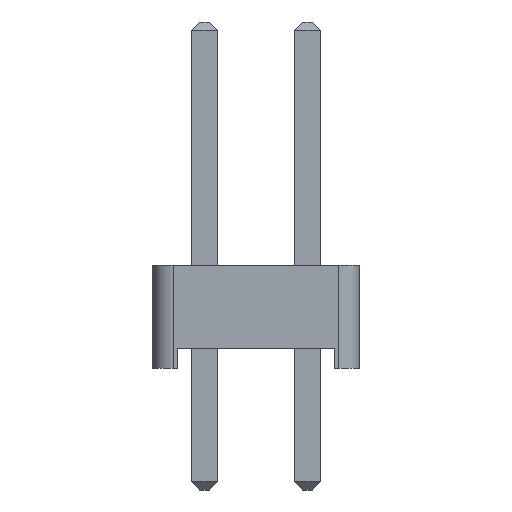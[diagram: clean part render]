
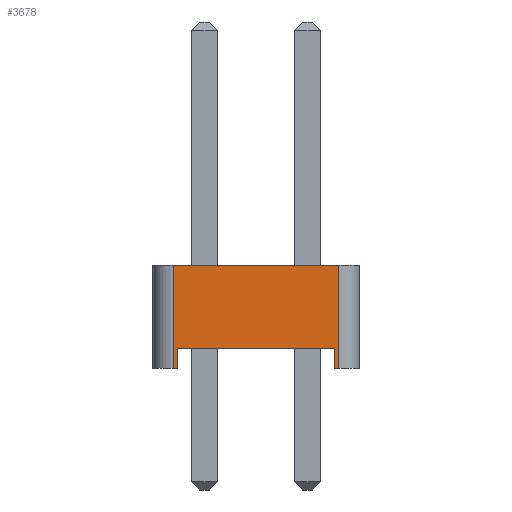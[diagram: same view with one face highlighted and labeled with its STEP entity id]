
A CAD part, left-side view. The second image highlights one B-rep face of the part: STEP entity #3678.
In plain terms, the highlighted planar face has unit normal (-1, 0, 0).
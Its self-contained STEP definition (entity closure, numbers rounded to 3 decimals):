
#3418 = VERTEX_POINT('',#3419);
#3419 = CARTESIAN_POINT('',(-1.27,2.04,0.));
#3427 = PLANE('',#3428);
#3428 = AXIS2_PLACEMENT_3D('',#3429,#3430,#3431);
#3429 = CARTESIAN_POINT('',(0.,0.,0.));
#3430 = DIRECTION('',(-0.,-0.,-1.));
#3431 = DIRECTION('',(-1.,0.,0.));
#3443 = CYLINDRICAL_SURFACE('',#3444,0.5);
#3444 = AXIS2_PLACEMENT_3D('',#3445,#3446,#3447);
#3445 = CARTESIAN_POINT('',(-0.77,2.04,0.));
#3446 = DIRECTION('',(0.,0.,1.));
#3447 = DIRECTION('',(0.,1.,0.));
#3545 = VERTEX_POINT('',#3546);
#3546 = CARTESIAN_POINT('',(-1.27,1.94,0.));
#3560 = PLANE('',#3561);
#3561 = AXIS2_PLACEMENT_3D('',#3562,#3563,#3564);
#3562 = CARTESIAN_POINT('',(1.27,1.94,0.));
#3563 = DIRECTION('',(0.,-1.,0.));
#3564 = DIRECTION('',(-1.,0.,0.));
#3572 = EDGE_CURVE('',#3545,#3418,#3573,.T.);
#3573 = SURFACE_CURVE('',#3574,(#3578,#3585),.PCURVE_S1.);
#3574 = LINE('',#3575,#3576);
#3575 = CARTESIAN_POINT('',(-1.27,-2.54,0.));
#3576 = VECTOR('',#3577,1.);
#3577 = DIRECTION('',(0.,1.,0.));
#3578 = PCURVE('',#3427,#3579);
#3579 = DEFINITIONAL_REPRESENTATION('',(#3580),#3584);
#3580 = LINE('',#3581,#3582);
#3581 = CARTESIAN_POINT('',(1.27,-2.54));
#3582 = VECTOR('',#3583,1.);
#3583 = DIRECTION('',(0.,1.));
#3584 = ( GEOMETRIC_REPRESENTATION_CONTEXT(2) 
PARAMETRIC_REPRESENTATION_CONTEXT() REPRESENTATION_CONTEXT('2D SPACE',''
  ) );
#3585 = PCURVE('',#3586,#3591);
#3586 = PLANE('',#3587);
#3587 = AXIS2_PLACEMENT_3D('',#3588,#3589,#3590);
#3588 = CARTESIAN_POINT('',(-1.27,-2.54,0.));
#3589 = DIRECTION('',(-1.,0.,0.));
#3590 = DIRECTION('',(0.,1.,0.));
#3591 = DEFINITIONAL_REPRESENTATION('',(#3592),#3596);
#3592 = LINE('',#3593,#3594);
#3593 = CARTESIAN_POINT('',(0.,0.));
#3594 = VECTOR('',#3595,1.);
#3595 = DIRECTION('',(1.,0.));
#3596 = ( GEOMETRIC_REPRESENTATION_CONTEXT(2) 
PARAMETRIC_REPRESENTATION_CONTEXT() REPRESENTATION_CONTEXT('2D SPACE',''
  ) );
#3602 = EDGE_CURVE('',#3418,#3603,#3605,.T.);
#3603 = VERTEX_POINT('',#3604);
#3604 = CARTESIAN_POINT('',(-1.27,2.04,2.54));
#3605 = SURFACE_CURVE('',#3606,(#3610,#3617),.PCURVE_S1.);
#3606 = LINE('',#3607,#3608);
#3607 = CARTESIAN_POINT('',(-1.27,2.04,0.));
#3608 = VECTOR('',#3609,1.);
#3609 = DIRECTION('',(0.,0.,1.));
#3610 = PCURVE('',#3443,#3611);
#3611 = DEFINITIONAL_REPRESENTATION('',(#3612),#3616);
#3612 = LINE('',#3613,#3614);
#3613 = CARTESIAN_POINT('',(1.571,0.));
#3614 = VECTOR('',#3615,1.);
#3615 = DIRECTION('',(0.,1.));
#3616 = ( GEOMETRIC_REPRESENTATION_CONTEXT(2) 
PARAMETRIC_REPRESENTATION_CONTEXT() REPRESENTATION_CONTEXT('2D SPACE',''
  ) );
#3617 = PCURVE('',#3586,#3618);
#3618 = DEFINITIONAL_REPRESENTATION('',(#3619),#3623);
#3619 = LINE('',#3620,#3621);
#3620 = CARTESIAN_POINT('',(4.58,0.));
#3621 = VECTOR('',#3622,1.);
#3622 = DIRECTION('',(0.,-1.));
#3623 = ( GEOMETRIC_REPRESENTATION_CONTEXT(2) 
PARAMETRIC_REPRESENTATION_CONTEXT() REPRESENTATION_CONTEXT('2D SPACE',''
  ) );
#3642 = PLANE('',#3643);
#3643 = AXIS2_PLACEMENT_3D('',#3644,#3645,#3646);
#3644 = CARTESIAN_POINT('',(0.,0.,2.54));
#3645 = DIRECTION('',(-0.,-0.,-1.));
#3646 = DIRECTION('',(-1.,0.,0.));
#3678 = ADVANCED_FACE('',(#3679),#3586,.T.);
#3679 = FACE_BOUND('',#3680,.T.);
#3680 = EDGE_LOOP('',(#3681,#3711,#3739,#3760,#3761,#3762,#3785,#3813));
#3681 = ORIENTED_EDGE('',*,*,#3682,.F.);
#3682 = EDGE_CURVE('',#3683,#3685,#3687,.T.);
#3683 = VERTEX_POINT('',#3684);
#3684 = CARTESIAN_POINT('',(-1.27,-2.04,0.));
#3685 = VERTEX_POINT('',#3686);
#3686 = CARTESIAN_POINT('',(-1.27,-1.94,0.));
#3687 = SURFACE_CURVE('',#3688,(#3692,#3699),.PCURVE_S1.);
#3688 = LINE('',#3689,#3690);
#3689 = CARTESIAN_POINT('',(-1.27,-2.54,0.));
#3690 = VECTOR('',#3691,1.);
#3691 = DIRECTION('',(0.,1.,0.));
#3692 = PCURVE('',#3586,#3693);
#3693 = DEFINITIONAL_REPRESENTATION('',(#3694),#3698);
#3694 = LINE('',#3695,#3696);
#3695 = CARTESIAN_POINT('',(0.,0.));
#3696 = VECTOR('',#3697,1.);
#3697 = DIRECTION('',(1.,0.));
#3698 = ( GEOMETRIC_REPRESENTATION_CONTEXT(2) 
PARAMETRIC_REPRESENTATION_CONTEXT() REPRESENTATION_CONTEXT('2D SPACE',''
  ) );
#3699 = PCURVE('',#3700,#3705);
#3700 = PLANE('',#3701);
#3701 = AXIS2_PLACEMENT_3D('',#3702,#3703,#3704);
#3702 = CARTESIAN_POINT('',(0.,0.,0.));
#3703 = DIRECTION('',(-0.,-0.,-1.));
#3704 = DIRECTION('',(-1.,0.,0.));
#3705 = DEFINITIONAL_REPRESENTATION('',(#3706),#3710);
#3706 = LINE('',#3707,#3708);
#3707 = CARTESIAN_POINT('',(1.27,-2.54));
#3708 = VECTOR('',#3709,1.);
#3709 = DIRECTION('',(0.,1.));
#3710 = ( GEOMETRIC_REPRESENTATION_CONTEXT(2) 
PARAMETRIC_REPRESENTATION_CONTEXT() REPRESENTATION_CONTEXT('2D SPACE',''
  ) );
#3711 = ORIENTED_EDGE('',*,*,#3712,.T.);
#3712 = EDGE_CURVE('',#3683,#3713,#3715,.T.);
#3713 = VERTEX_POINT('',#3714);
#3714 = CARTESIAN_POINT('',(-1.27,-2.04,2.54));
#3715 = SURFACE_CURVE('',#3716,(#3720,#3727),.PCURVE_S1.);
#3716 = LINE('',#3717,#3718);
#3717 = CARTESIAN_POINT('',(-1.27,-2.04,0.));
#3718 = VECTOR('',#3719,1.);
#3719 = DIRECTION('',(0.,0.,1.));
#3720 = PCURVE('',#3586,#3721);
#3721 = DEFINITIONAL_REPRESENTATION('',(#3722),#3726);
#3722 = LINE('',#3723,#3724);
#3723 = CARTESIAN_POINT('',(0.5,0.));
#3724 = VECTOR('',#3725,1.);
#3725 = DIRECTION('',(0.,-1.));
#3726 = ( GEOMETRIC_REPRESENTATION_CONTEXT(2) 
PARAMETRIC_REPRESENTATION_CONTEXT() REPRESENTATION_CONTEXT('2D SPACE',''
  ) );
#3727 = PCURVE('',#3728,#3733);
#3728 = CYLINDRICAL_SURFACE('',#3729,0.5);
#3729 = AXIS2_PLACEMENT_3D('',#3730,#3731,#3732);
#3730 = CARTESIAN_POINT('',(-0.77,-2.04,0.));
#3731 = DIRECTION('',(0.,0.,1.));
#3732 = DIRECTION('',(0.,-1.,0.));
#3733 = DEFINITIONAL_REPRESENTATION('',(#3734),#3738);
#3734 = LINE('',#3735,#3736);
#3735 = CARTESIAN_POINT('',(-1.571,0.));
#3736 = VECTOR('',#3737,1.);
#3737 = DIRECTION('',(-0.,1.));
#3738 = ( GEOMETRIC_REPRESENTATION_CONTEXT(2) 
PARAMETRIC_REPRESENTATION_CONTEXT() REPRESENTATION_CONTEXT('2D SPACE',''
  ) );
#3739 = ORIENTED_EDGE('',*,*,#3740,.T.);
#3740 = EDGE_CURVE('',#3713,#3603,#3741,.T.);
#3741 = SURFACE_CURVE('',#3742,(#3746,#3753),.PCURVE_S1.);
#3742 = LINE('',#3743,#3744);
#3743 = CARTESIAN_POINT('',(-1.27,-2.54,2.54));
#3744 = VECTOR('',#3745,1.);
#3745 = DIRECTION('',(0.,1.,0.));
#3746 = PCURVE('',#3586,#3747);
#3747 = DEFINITIONAL_REPRESENTATION('',(#3748),#3752);
#3748 = LINE('',#3749,#3750);
#3749 = CARTESIAN_POINT('',(0.,-2.54));
#3750 = VECTOR('',#3751,1.);
#3751 = DIRECTION('',(1.,0.));
#3752 = ( GEOMETRIC_REPRESENTATION_CONTEXT(2) 
PARAMETRIC_REPRESENTATION_CONTEXT() REPRESENTATION_CONTEXT('2D SPACE',''
  ) );
#3753 = PCURVE('',#3642,#3754);
#3754 = DEFINITIONAL_REPRESENTATION('',(#3755),#3759);
#3755 = LINE('',#3756,#3757);
#3756 = CARTESIAN_POINT('',(1.27,-2.54));
#3757 = VECTOR('',#3758,1.);
#3758 = DIRECTION('',(0.,1.));
#3759 = ( GEOMETRIC_REPRESENTATION_CONTEXT(2) 
PARAMETRIC_REPRESENTATION_CONTEXT() REPRESENTATION_CONTEXT('2D SPACE',''
  ) );
#3760 = ORIENTED_EDGE('',*,*,#3602,.F.);
#3761 = ORIENTED_EDGE('',*,*,#3572,.F.);
#3762 = ORIENTED_EDGE('',*,*,#3763,.T.);
#3763 = EDGE_CURVE('',#3545,#3764,#3766,.T.);
#3764 = VERTEX_POINT('',#3765);
#3765 = CARTESIAN_POINT('',(-1.27,1.94,0.5));
#3766 = SURFACE_CURVE('',#3767,(#3771,#3778),.PCURVE_S1.);
#3767 = LINE('',#3768,#3769);
#3768 = CARTESIAN_POINT('',(-1.27,1.94,0.));
#3769 = VECTOR('',#3770,1.);
#3770 = DIRECTION('',(0.,0.,1.));
#3771 = PCURVE('',#3586,#3772);
#3772 = DEFINITIONAL_REPRESENTATION('',(#3773),#3777);
#3773 = LINE('',#3774,#3775);
#3774 = CARTESIAN_POINT('',(4.48,0.));
#3775 = VECTOR('',#3776,1.);
#3776 = DIRECTION('',(0.,-1.));
#3777 = ( GEOMETRIC_REPRESENTATION_CONTEXT(2) 
PARAMETRIC_REPRESENTATION_CONTEXT() REPRESENTATION_CONTEXT('2D SPACE',''
  ) );
#3778 = PCURVE('',#3560,#3779);
#3779 = DEFINITIONAL_REPRESENTATION('',(#3780),#3784);
#3780 = LINE('',#3781,#3782);
#3781 = CARTESIAN_POINT('',(2.54,0.));
#3782 = VECTOR('',#3783,1.);
#3783 = DIRECTION('',(0.,-1.));
#3784 = ( GEOMETRIC_REPRESENTATION_CONTEXT(2) 
PARAMETRIC_REPRESENTATION_CONTEXT() REPRESENTATION_CONTEXT('2D SPACE',''
  ) );
#3785 = ORIENTED_EDGE('',*,*,#3786,.T.);
#3786 = EDGE_CURVE('',#3764,#3787,#3789,.T.);
#3787 = VERTEX_POINT('',#3788);
#3788 = CARTESIAN_POINT('',(-1.27,-1.94,0.5));
#3789 = SURFACE_CURVE('',#3790,(#3794,#3801),.PCURVE_S1.);
#3790 = LINE('',#3791,#3792);
#3791 = CARTESIAN_POINT('',(-1.27,1.94,0.5));
#3792 = VECTOR('',#3793,1.);
#3793 = DIRECTION('',(0.,-1.,0.));
#3794 = PCURVE('',#3586,#3795);
#3795 = DEFINITIONAL_REPRESENTATION('',(#3796),#3800);
#3796 = LINE('',#3797,#3798);
#3797 = CARTESIAN_POINT('',(4.48,-0.5));
#3798 = VECTOR('',#3799,1.);
#3799 = DIRECTION('',(-1.,0.));
#3800 = ( GEOMETRIC_REPRESENTATION_CONTEXT(2) 
PARAMETRIC_REPRESENTATION_CONTEXT() REPRESENTATION_CONTEXT('2D SPACE',''
  ) );
#3801 = PCURVE('',#3802,#3807);
#3802 = PLANE('',#3803);
#3803 = AXIS2_PLACEMENT_3D('',#3804,#3805,#3806);
#3804 = CARTESIAN_POINT('',(0.,0.,0.5));
#3805 = DIRECTION('',(0.,0.,1.));
#3806 = DIRECTION('',(1.,0.,0.));
#3807 = DEFINITIONAL_REPRESENTATION('',(#3808),#3812);
#3808 = LINE('',#3809,#3810);
#3809 = CARTESIAN_POINT('',(-1.27,1.94));
#3810 = VECTOR('',#3811,1.);
#3811 = DIRECTION('',(0.,-1.));
#3812 = ( GEOMETRIC_REPRESENTATION_CONTEXT(2) 
PARAMETRIC_REPRESENTATION_CONTEXT() REPRESENTATION_CONTEXT('2D SPACE',''
  ) );
#3813 = ORIENTED_EDGE('',*,*,#3814,.F.);
#3814 = EDGE_CURVE('',#3685,#3787,#3815,.T.);
#3815 = SURFACE_CURVE('',#3816,(#3820,#3827),.PCURVE_S1.);
#3816 = LINE('',#3817,#3818);
#3817 = CARTESIAN_POINT('',(-1.27,-1.94,0.));
#3818 = VECTOR('',#3819,1.);
#3819 = DIRECTION('',(0.,0.,1.));
#3820 = PCURVE('',#3586,#3821);
#3821 = DEFINITIONAL_REPRESENTATION('',(#3822),#3826);
#3822 = LINE('',#3823,#3824);
#3823 = CARTESIAN_POINT('',(0.6,0.));
#3824 = VECTOR('',#3825,1.);
#3825 = DIRECTION('',(0.,-1.));
#3826 = ( GEOMETRIC_REPRESENTATION_CONTEXT(2) 
PARAMETRIC_REPRESENTATION_CONTEXT() REPRESENTATION_CONTEXT('2D SPACE',''
  ) );
#3827 = PCURVE('',#3828,#3833);
#3828 = PLANE('',#3829);
#3829 = AXIS2_PLACEMENT_3D('',#3830,#3831,#3832);
#3830 = CARTESIAN_POINT('',(-1.27,-1.94,0.));
#3831 = DIRECTION('',(0.,1.,0.));
#3832 = DIRECTION('',(1.,0.,0.));
#3833 = DEFINITIONAL_REPRESENTATION('',(#3834),#3838);
#3834 = LINE('',#3835,#3836);
#3835 = CARTESIAN_POINT('',(0.,0.));
#3836 = VECTOR('',#3837,1.);
#3837 = DIRECTION('',(0.,-1.));
#3838 = ( GEOMETRIC_REPRESENTATION_CONTEXT(2) 
PARAMETRIC_REPRESENTATION_CONTEXT() REPRESENTATION_CONTEXT('2D SPACE',''
  ) );
